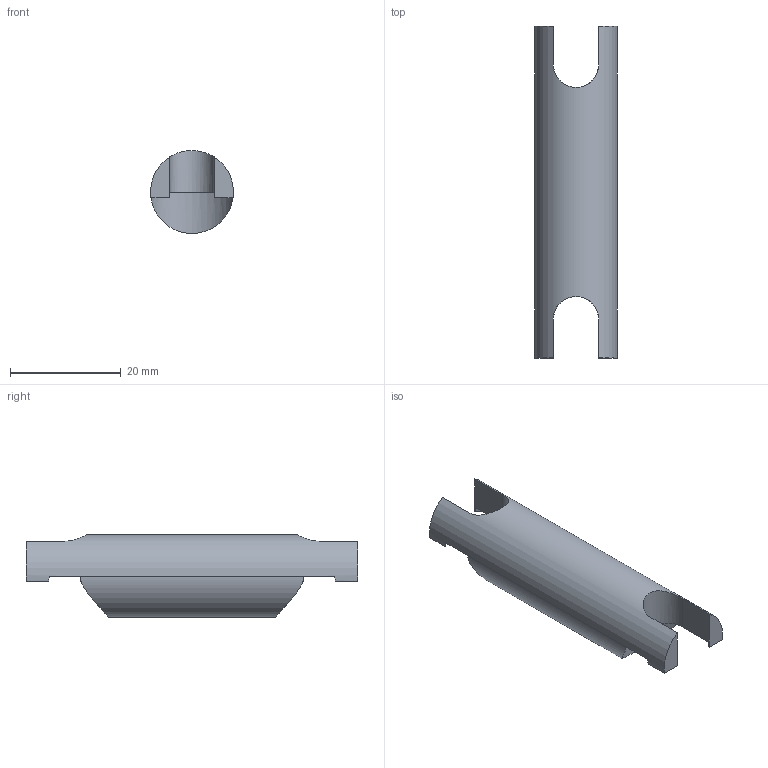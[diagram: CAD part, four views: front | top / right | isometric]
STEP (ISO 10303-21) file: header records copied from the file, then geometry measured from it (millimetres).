
FILE_DESCRIPTION((''),'2;1');
FILE_NAME('SP060171510','2002-12-27T',('Lipro doo'),('Lipro d.o.o.'),'PRO/ENGINEER BY PARAMETRIC TECHNOLOGY CORPORATION, 2001150','PRO/ENGINEER BY PARAMETRIC TECHNOLOGY CORPORATION, 2001150','');
FILE_SCHEMA(('CONFIG_CONTROL_DESIGN'));
Length unit declared in the file: millimetre
Products named in the file (1): SP060171510
Bounding box: 15 x 60 x 15 mm (x, y, z)
Volume: 6959.1 mm3; surface area: 2966.5 mm2
Topology: 1 solids, 1 shells, 24 faces, 62 edges, 40 vertices
Faces by surface type: plane 14, cylinder 10
Entity records: 888 total; most frequent: CARTESIAN_POINT 262, ORIENTED_EDGE 124, DIRECTION 118, EDGE_CURVE 62, AXIS2_PLACEMENT_3D 40, VERTEX_POINT 40, VECTOR 38, LINE 38
